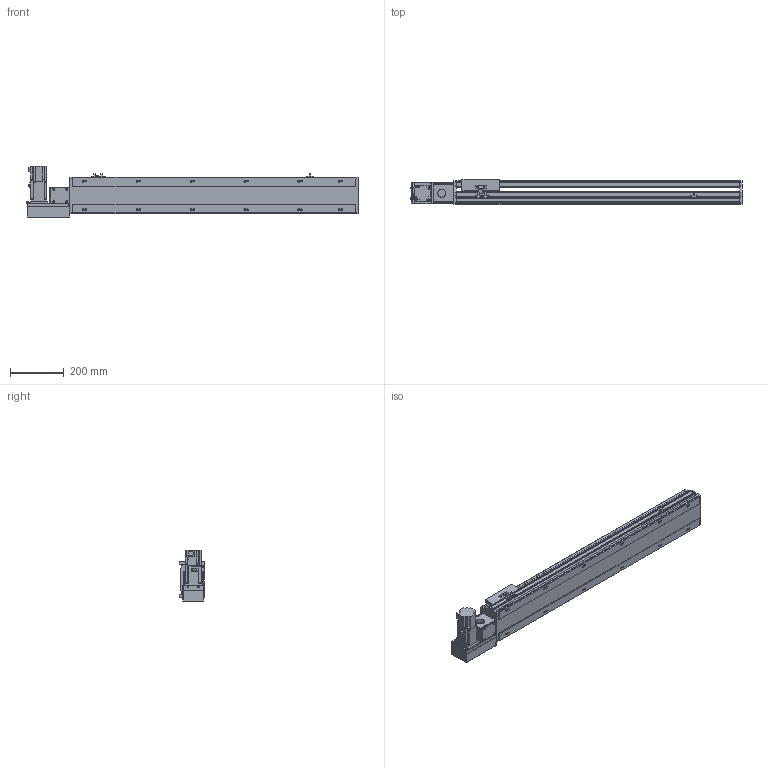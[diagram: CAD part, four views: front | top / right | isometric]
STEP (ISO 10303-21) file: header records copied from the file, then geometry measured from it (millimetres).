
FILE_DESCRIPTION( ( 'STEP AP214' ), '1' );
FILE_NAME( 'x:/temp/worker_6/temp/exporttempdir_5396_10_drp0T/format_0/PBS140S-P40-S800-L-T40-C1-N(0).stp', '2022-06-09T00:01:07', ( 'License CC BY-ND 4.0' ), ( 'CADENAS' ), ' ', 'PARTsolutions', ' ' );
FILE_SCHEMA( ( 'AUTOMOTIVE_DESIGN { 1 0 10303 214 1 1 1 1 }' ) );
Length unit declared in the file: millimetre
Products named in the file (7): PBS140S-P40-S800-L-T40-C1-N(0); _PBS140S-S800()_body; _PBS140ST-L_motors; _T40-p1; _PBS140S_sliser; _PBS140S_plant; _PBS140S_sensor
Assembly tree (8 placements, depth 2):
  PBS140S-P40-S800-L-T40-C1-N(0)
    _PBS140S-S800()_body
    _PBS140ST-L_motors
    _T40-p1
    _PBS140S_sliser
    _PBS140S_plant
    _PBS140S_sensor  x3
Bounding box: 1233 x 93 x 189.7 mm (x, y, z)
Volume: 6129188.3 mm3; surface area: 1069871.5 mm2
Topology: 8 solids, 8 shells, 1067 faces, 2831 edges, 1853 vertices
Faces by surface type: plane 690, cylinder 329, cone 38, sphere 8, torus 2
Full cylindrical faces by diameter (mm): 3.242 x4, 4 x2, 4.134 x4, 4.4 x8, 4.5 x2, 4.8 x4, 4.917 x20, 5.5 x7, 6 x2, 7 x14, 7.5 x8, 8 x12, 8.5 x4, 10.5 x12, 14 x1, 30 x2, 50 x2
Entity records: 39052 total; most frequent: CARTESIAN_POINT 6070, DIRECTION 5208, ORIENTED_EDGE 4942, EDGE_CURVE 2471, AXIS2_PLACEMENT_3D 1799, VERTEX_POINT 1705, LINE 1610, VECTOR 1610
